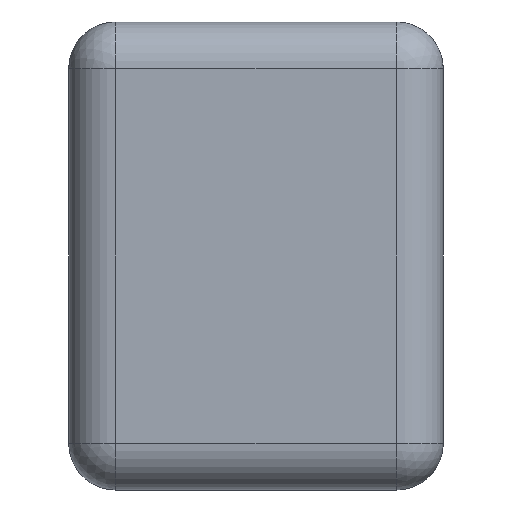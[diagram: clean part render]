
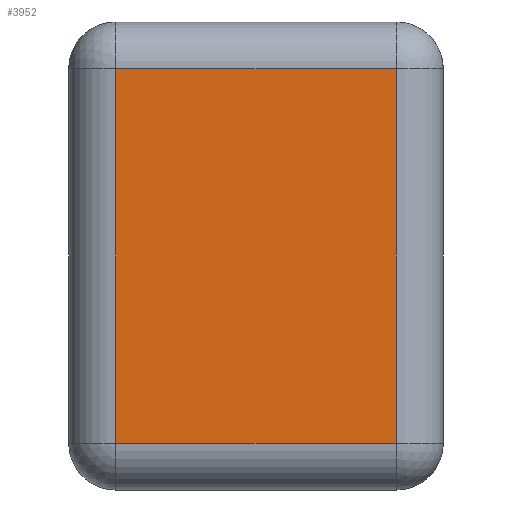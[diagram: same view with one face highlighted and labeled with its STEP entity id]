
A CAD part, left-side view. The second image highlights one B-rep face of the part: STEP entity #3952.
In plain terms, the highlighted planar face has unit normal (-1, 0, 0).
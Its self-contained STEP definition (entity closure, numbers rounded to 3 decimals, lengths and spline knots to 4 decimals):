
#69=PLANE('',#4222);
#197=LINE('',#6089,#572);
#198=LINE('',#6091,#573);
#199=LINE('',#6093,#574);
#200=LINE('',#6094,#575);
#572=VECTOR('',#4807,0.6);
#573=VECTOR('',#4808,0.8);
#574=VECTOR('',#4809,0.6);
#575=VECTOR('',#4810,0.8);
#1061=FACE_OUTER_BOUND('',#1286,.T.);
#1286=EDGE_LOOP('',(#2857,#2858,#2859,#2860));
#1744=VERTEX_POINT('',#6087);
#1745=VERTEX_POINT('',#6088);
#1746=VERTEX_POINT('',#6090);
#1747=VERTEX_POINT('',#6092);
#2170=EDGE_CURVE('',#1744,#1745,#197,.T.);
#2171=EDGE_CURVE('',#1746,#1744,#198,.T.);
#2172=EDGE_CURVE('',#1747,#1746,#199,.T.);
#2173=EDGE_CURVE('',#1745,#1747,#200,.T.);
#2857=ORIENTED_EDGE('',*,*,#2170,.F.);
#2858=ORIENTED_EDGE('',*,*,#2171,.F.);
#2859=ORIENTED_EDGE('',*,*,#2172,.F.);
#2860=ORIENTED_EDGE('',*,*,#2173,.F.);
#3952=ADVANCED_FACE('',(#1061),#69,.T.);
#4222=AXIS2_PLACEMENT_3D('',#6086,#4805,#4806);
#4805=DIRECTION('center_axis',(-1.,0.,0.));
#4806=DIRECTION('ref_axis',(0.,-1.,0.));
#4807=DIRECTION('',(0.,1.,0.));
#4808=DIRECTION('',(0.,0.,-1.));
#4809=DIRECTION('',(0.,-1.,0.));
#4810=DIRECTION('',(0.,0.,1.));
#6086=CARTESIAN_POINT('Origin',(-0.8,0.4,0.));
#6087=CARTESIAN_POINT('',(-0.8,-0.3,0.1));
#6088=CARTESIAN_POINT('',(-0.8,0.3,0.1));
#6089=CARTESIAN_POINT('',(-0.8,0.2,0.1));
#6090=CARTESIAN_POINT('',(-0.8,-0.3,0.9));
#6091=CARTESIAN_POINT('',(-0.8,-0.3,0.));
#6092=CARTESIAN_POINT('',(-0.8,0.3,0.9));
#6093=CARTESIAN_POINT('',(-0.8,0.2,0.9));
#6094=CARTESIAN_POINT('',(-0.8,0.3,0.));
